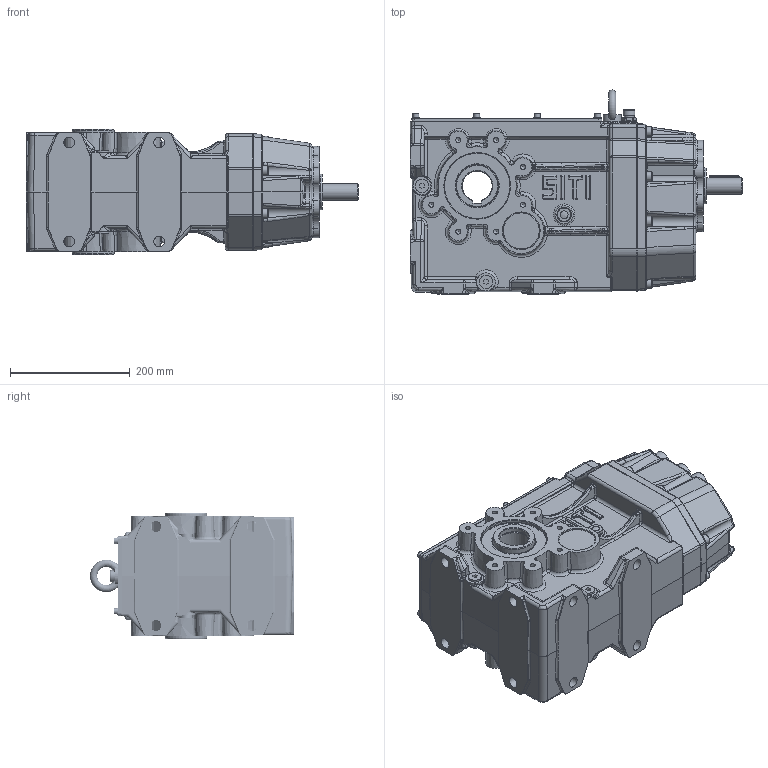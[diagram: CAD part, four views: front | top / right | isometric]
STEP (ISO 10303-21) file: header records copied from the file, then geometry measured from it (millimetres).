
FILE_DESCRIPTION((''),'2;1');
FILE_NAME('C:\Users\m.piscopiello.SITIRIDUTTORI\Desktop\3D x SITO\BH 100\BH_100 C.stp','2013-05-02T09:15:54',('m.piscopiello'),(''),'Autodesk Inventor 2012','Autodesk Inventor 2012','');
FILE_SCHEMA(('CONFIG_CONTROL_DESIGN'));
Length unit declared in the file: millimetre
Products named in the file (1): BH_100 C
Bounding box: 553.5 x 340 x 210 mm (x, y, z)
Volume: 6509826.8 mm3; surface area: 1409592.1 mm2
Topology: 45 solids, 51 shells, 3389 faces, 8043 edges, 4760 vertices
Faces by surface type: cylinder 1044, plane 943, bspline 720, torus 297, cone 231, sphere 154
Full cylindrical faces by diameter (mm): 4.917 x8, 5 x1, 6 x17, 6.4 x9, 6.647 x8, 7 x8, 8.376 x22, 10 x20, 10.106 x3, 11 x10, 12 x8, 12.5 x8, 14.95 x1, 16 x9, 16.6 x7, 18 x8, 19 x1, 19.5 x1, 20 x1, 28 x1, 30 x4, 37.5 x1, 39.377 x1, 39.977 x2, 52 x1, 54.765 x1, 57 x1, 58.875 x2, 59.075 x1, 59.376 x1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
Entity records: 121576 total; most frequent: CARTESIAN_POINT 45737, DIRECTION 14726, ORIENTED_EDGE 14688, EDGE_CURVE 7344, AXIS2_PLACEMENT_3D 6066, VERTEX_POINT 4591, EDGE_LOOP 4005, STYLED_ITEM 3434
